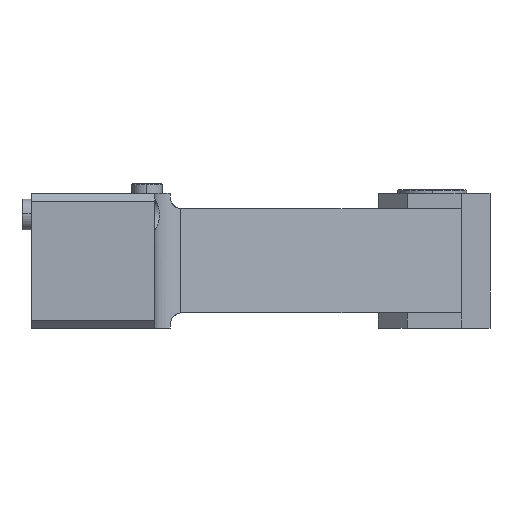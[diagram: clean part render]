
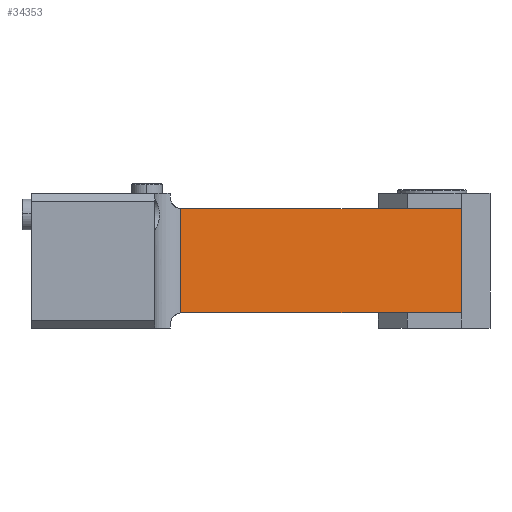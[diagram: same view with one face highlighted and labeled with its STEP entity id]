
A CAD part, left-side view. The second image highlights one B-rep face of the part: STEP entity #34353.
In plain terms, the highlighted planar face has unit normal (-0.985, -0.174, 0).
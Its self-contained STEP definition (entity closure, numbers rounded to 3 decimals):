
#7 = CARTESIAN_POINT ( 'NONE',  ( -27.784, 20.5, -9. ) ) ;
#364 = PLANE ( 'NONE',  #6965 ) ;
#752 = CARTESIAN_POINT ( 'NONE',  ( -27.784, 20.5, 18. ) ) ;
#1219 = CARTESIAN_POINT ( 'NONE',  ( -27.852, 20.889, 18.025 ) ) ;
#1384 = LINE ( 'NONE', #28336, #36361 ) ;
#1847 =( BOUNDED_CURVE ( )  B_SPLINE_CURVE ( 3, ( #21957, #31441, #2774, #7 ),
 .UNSPECIFIED., .F., .T. ) 
 B_SPLINE_CURVE_WITH_KNOTS ( ( 4, 4 ),
 ( 4.582, 4.712 ),
 .UNSPECIFIED. ) 
 CURVE ( )  GEOMETRIC_REPRESENTATION_ITEM ( )  RATIONAL_B_SPLINE_CURVE ( ( 1., 0.999, 0.999, 1. ) ) 
 REPRESENTATION_ITEM ( '' )  );
#2774 = CARTESIAN_POINT ( 'NONE',  ( -27.807, 20.63, -9. ) ) ;
#2870 = CARTESIAN_POINT ( 'NONE',  ( -15., -52., -22. ) ) ;
#3295 = ORIENTED_EDGE ( 'NONE', *, *, #13162, .T. ) ;
#3599 = CARTESIAN_POINT ( 'NONE',  ( -27.83, 20.76, 18.008 ) ) ;
#3701 = VECTOR ( 'NONE', #8610, 1000. ) ;
#4580 = LINE ( 'NONE', #34072, #3701 ) ;
#4590 = EDGE_LOOP ( 'NONE', ( #32469, #33090, #34032, #16578, #21174, #3295 ) ) ;
#5080 = CARTESIAN_POINT ( 'NONE',  ( -15., -52., -9. ) ) ;
#5581 = EDGE_CURVE ( 'NONE', #6706, #30702, #4580, .T. ) ;
#6706 = VERTEX_POINT ( 'NONE', #5080 ) ;
#6965 = AXIS2_PLACEMENT_3D ( 'NONE', #20211, #11767, #34375 ) ;
#7058 = VERTEX_POINT ( 'NONE', #10954 ) ;
#8263 = EDGE_CURVE ( 'NONE', #35488, #7058, #1384, .T. ) ;
#8610 = DIRECTION ( 'NONE',  ( -0.174, 0.985, 0. ) ) ;
#9196 = FACE_OUTER_BOUND ( 'NONE', #4590, .T. ) ;
#10954 = CARTESIAN_POINT ( 'NONE',  ( -27.784, 20.5, 18. ) ) ;
#11767 = DIRECTION ( 'NONE',  ( 0.985, 0.174, 0. ) ) ;
#13162 = EDGE_CURVE ( 'NONE', #28061, #30702, #1847, .T. ) ;
#13489 = CARTESIAN_POINT ( 'NONE',  ( -27.852, 20.889, 18.025 ) ) ;
#16219 = VECTOR ( 'NONE', #22667, 1000. ) ;
#16578 = ORIENTED_EDGE ( 'NONE', *, *, #18241, .T. ) ;
#16857 = EDGE_CURVE ( 'NONE', #6706, #35488, #21531, .T. ) ;
#16995 = CARTESIAN_POINT ( 'NONE',  ( -27.852, 20.889, -13. ) ) ;
#18241 = EDGE_CURVE ( 'NONE', #7058, #34755, #30396, .T. ) ;
#20211 = CARTESIAN_POINT ( 'NONE',  ( -29.018, 27.5, -22. ) ) ;
#20592 = CARTESIAN_POINT ( 'NONE',  ( -27.807, 20.63, 18. ) ) ;
#21174 = ORIENTED_EDGE ( 'NONE', *, *, #28698, .T. ) ;
#21531 = LINE ( 'NONE', #2870, #16219 ) ;
#21957 = CARTESIAN_POINT ( 'NONE',  ( -27.852, 20.889, -9.025 ) ) ;
#22667 = DIRECTION ( 'NONE',  ( 0., 0., 1. ) ) ;
#24700 = CARTESIAN_POINT ( 'NONE',  ( -27.852, 20.889, -9.025 ) ) ;
#24798 = VECTOR ( 'NONE', #25408, 1000. ) ;
#25408 = DIRECTION ( 'NONE',  ( 0., 0., -1. ) ) ;
#28061 = VERTEX_POINT ( 'NONE', #24700 ) ;
#28336 = CARTESIAN_POINT ( 'NONE',  ( -23.44, -4.133, 18. ) ) ;
#28698 = EDGE_CURVE ( 'NONE', #34755, #28061, #35358, .T. ) ;
#28937 = DIRECTION ( 'NONE',  ( -0.174, 0.985, 0. ) ) ;
#29123 = CARTESIAN_POINT ( 'NONE',  ( -15., -52., 18. ) ) ;
#30266 = CARTESIAN_POINT ( 'NONE',  ( -27.784, 20.5, -9. ) ) ;
#30396 =( BOUNDED_CURVE ( )  B_SPLINE_CURVE ( 3, ( #752, #20592, #3599, #1219 ),
 .UNSPECIFIED., .F., .F. ) 
 B_SPLINE_CURVE_WITH_KNOTS ( ( 4, 4 ),
 ( 4.712, 4.842 ),
 .UNSPECIFIED. ) 
 CURVE ( )  GEOMETRIC_REPRESENTATION_ITEM ( )  RATIONAL_B_SPLINE_CURVE ( ( 1., 0.999, 0.999, 1. ) ) 
 REPRESENTATION_ITEM ( '' )  );
#30702 = VERTEX_POINT ( 'NONE', #30266 ) ;
#31441 = CARTESIAN_POINT ( 'NONE',  ( -27.83, 20.76, -9.008 ) ) ;
#32469 = ORIENTED_EDGE ( 'NONE', *, *, #5581, .F. ) ;
#33090 = ORIENTED_EDGE ( 'NONE', *, *, #16857, .T. ) ;
#34032 = ORIENTED_EDGE ( 'NONE', *, *, #8263, .T. ) ;
#34072 = CARTESIAN_POINT ( 'NONE',  ( -29.018, 27.5, -9. ) ) ;
#34353 = ADVANCED_FACE ( 'NONE', ( #9196 ), #364, .F. ) ;
#34375 = DIRECTION ( 'NONE',  ( -0.174, 0.985, 0. ) ) ;
#34755 = VERTEX_POINT ( 'NONE', #13489 ) ;
#35358 = LINE ( 'NONE', #16995, #24798 ) ;
#35488 = VERTEX_POINT ( 'NONE', #29123 ) ;
#36361 = VECTOR ( 'NONE', #28937, 1000. ) ;
